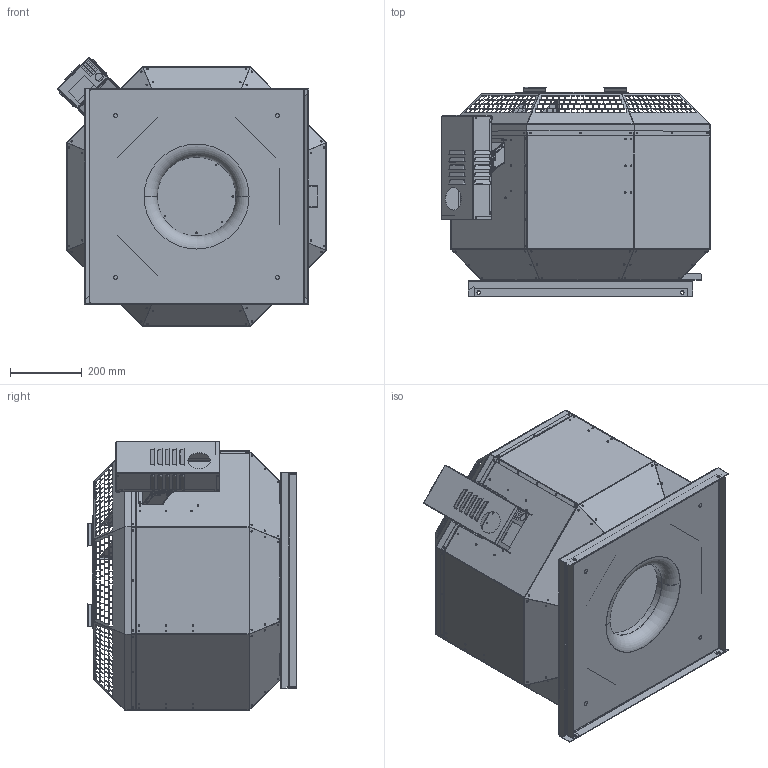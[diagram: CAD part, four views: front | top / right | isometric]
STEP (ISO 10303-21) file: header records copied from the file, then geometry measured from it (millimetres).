
FILE_DESCRIPTION (( 'STEP AP203' ), '1' );
FILE_NAME ('142183-00_DVN355D4F430_step.step', '2018-06-27T08:14:00', ( '' ), ( '' ), 'SwSTEP 2.0', 'SolidWorks 2017', '' );
FILE_SCHEMA (( 'CONFIG_CONTROL_DESIGN' ));
Length unit declared in the file: millimetre
Products named in the file (1): 142183-00_DVN355D4F430_step
Bounding box: 747.23 x 582.01 x 747.23 mm (x, y, z)
Surface area: 4644603.1 mm2 (no closed solid volume)
Topology: 0 solids, 65 shells, 3374 faces, 14396 edges, 10299 vertices
Faces by surface type: plane 2966, cylinder 341, bspline 63, torus 4
Entity records: 164844 total; most frequent: CARTESIAN_POINT 44713, ORIENTED_EDGE 22849, DIRECTION 22156, EDGE_CURVE 14396, LINE 12450, VECTOR 12450, VERTEX_POINT 10299, EDGE_LOOP 5928
